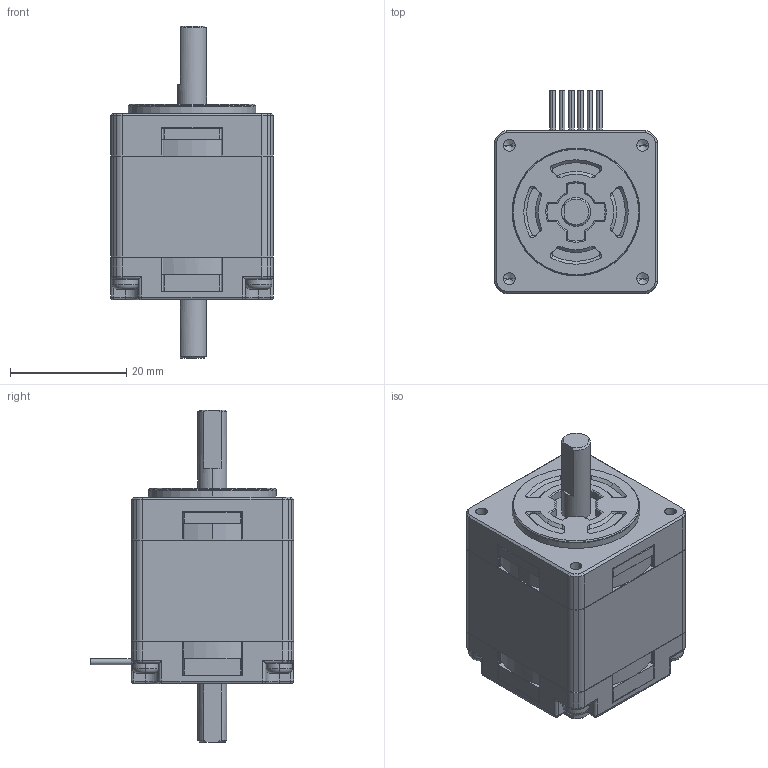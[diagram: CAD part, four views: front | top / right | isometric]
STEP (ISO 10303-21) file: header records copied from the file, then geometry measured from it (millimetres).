
FILE_DESCRIPTION (( 'STEP AP203' ), '1' );
FILE_NAME ('SH2281-5231.STEP', '2012-06-19T08:49:32', ( 'sanyodenki-admin' ), ( '' ), 'SwSTEP 2.0', 'SolidWorks 2011', '' );
FILE_SCHEMA (( 'CONFIG_CONTROL_DESIGN' ));
Length unit declared in the file: millimetre
Products named in the file (1): SH2281-5231
Bounding box: 28 x 35 x 57.2 mm (x, y, z)
Volume: 25427.1 mm3; surface area: 8364.7 mm2
Topology: 1 solids, 1 shells, 645 faces, 1717 edges, 1029 vertices
Faces by surface type: plane 249, cylinder 247, cone 79, torus 38, sphere 16, bspline 16
Entity records: 20293 total; most frequent: CARTESIAN_POINT 4060, DIRECTION 3530, ORIENTED_EDGE 3386, EDGE_CURVE 1693, AXIS2_PLACEMENT_3D 1315, VERTEX_POINT 1029, VECTOR 900, LINE 900
